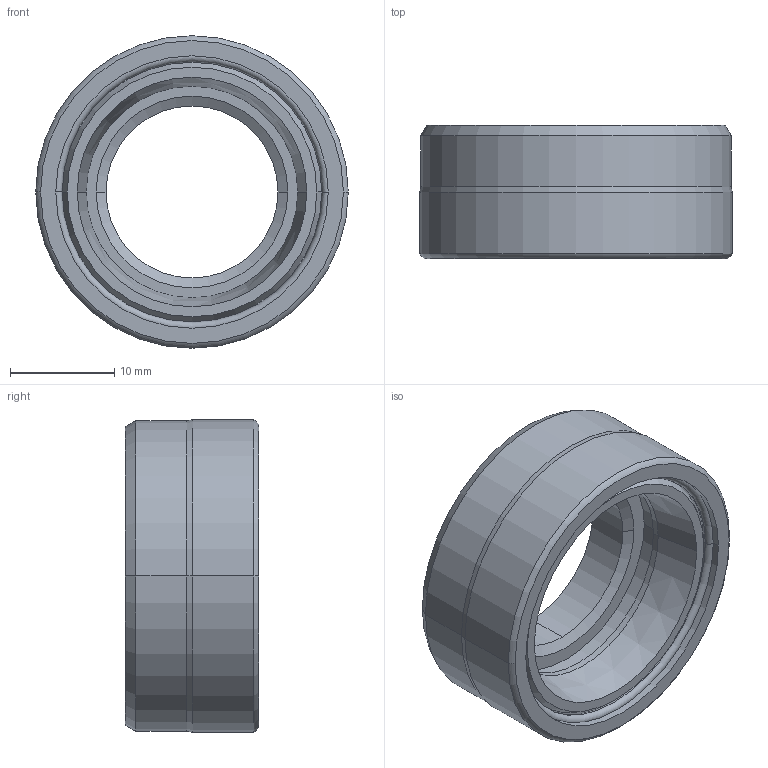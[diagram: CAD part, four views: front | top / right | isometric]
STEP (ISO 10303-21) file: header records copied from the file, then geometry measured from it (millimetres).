
FILE_DESCRIPTION (( 'STEP AP203' ), '1' );
FILE_NAME ('VXF0120-B.STEP', '2014-11-25T04:59:43', ( '0393' ), ( 'Hewlett-Packard Company' ), 'SwSTEP 2.0', 'SolidWorks 2013', '' );
FILE_SCHEMA (( 'CONFIG_CONTROL_DESIGN' ));
Length unit declared in the file: millimetre
Products named in the file (1): VXF0120-B
Bounding box: 30 x 12.8 x 30 mm (x, y, z)
Volume: 4972 mm3; surface area: 3012 mm2
Topology: 1 solids, 1 shells, 36 faces, 74 edges, 44 vertices
Faces by surface type: cone 12, cylinder 12, torus 6, plane 6
Entity records: 1041 total; most frequent: DIRECTION 198, CARTESIAN_POINT 155, ORIENTED_EDGE 148, AXIS2_PLACEMENT_3D 87, EDGE_CURVE 74, CIRCLE 50, VERTEX_POINT 44, EDGE_LOOP 42
